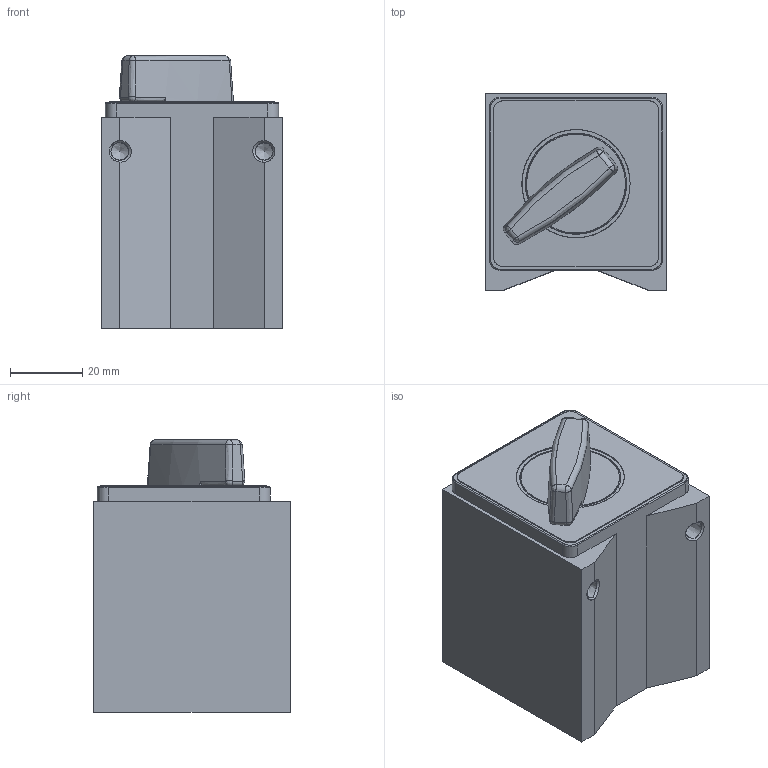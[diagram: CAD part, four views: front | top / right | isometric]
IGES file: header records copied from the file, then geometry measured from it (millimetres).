
Global section: file name: Y:\_LCPD Drawings\13.1 Lightweight Models\9936\LA-9936-0632 MAGNETIC BASE\LA-9936-0632-A MAGNETIC BASE.igs; native system: NX V1926; preprocessor: SIEMENS PLM Software NX 1942; date: 20210406.141700; units: millimetre
Bounding box: 50 x 54.5 x 75.5 mm (x, y, z)
Surface area: 20431.2 mm2 (no closed solid volume)
Topology: 0 solids, 0 shells, 93 faces, 610 edges, 584 vertices
Faces by surface type: bspline 93
